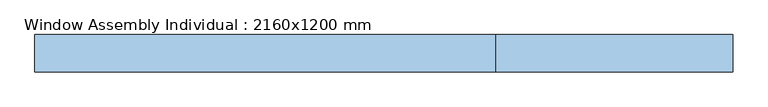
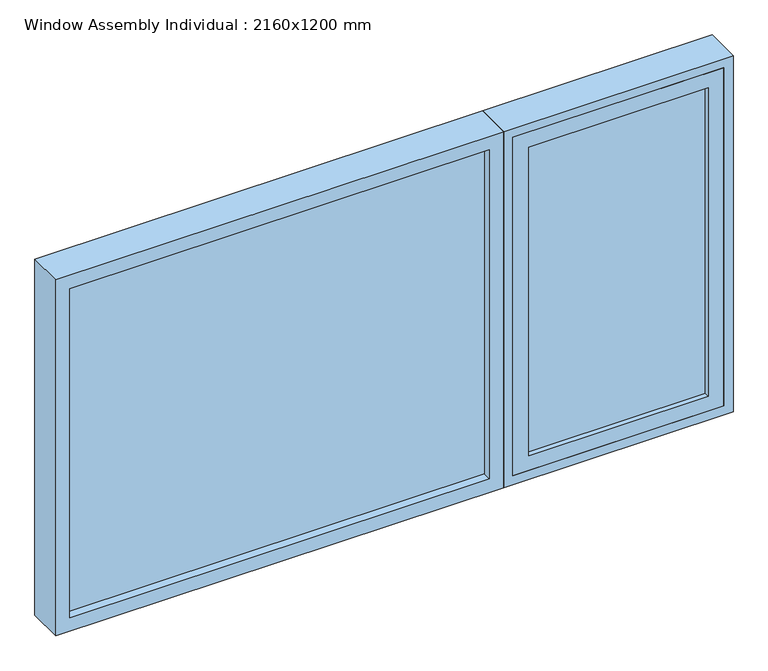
"""IFC4 building model written with IfcOpenShell, lengths in millimetres: window geometry, Window Assembly Individual : 2160x1200 mm."""

from ifc_helpers import new_model, si_unit, frame, origin, place, context, project, spatial, polyline, outline, extrude, faceted_brep, source, transform, mapped, element, save


def window_assembly_individual_2160x1200_mm_ef5d95c3(model_context):
    return source(origin(), model_context, "Body", "SolidModel", [
        extrude(outline(polyline([(1970.0, 378.0), (830.0, 378.0), (830.0, 1050.0), (1970.0, 1050.0), (1970.0, 378.0)]), holes=[polyline([(880.0, 428.0), (1920.0, 428.0), (1920.0, 1000.0), (880.0, 1000.0), (880.0, 428.0)])]), frame((0.0, -190.0, 0.0), z_axis=(0.0, 1.0, 0.0), x_axis=(0.0, 0.0, 1.0)), (0.0, 0.0, 1.0), 50.0),
        extrude(outline(polyline([(1000.0, -155.0), (1000.0, -175.0), (428.0, -175.0), (428.0, -155.0), (1000.0, -155.0)])), frame((0.0, 0.0, 880.0), z_axis=(0.0, 0.0, 1.0), x_axis=(1.0, 0.0, 0.0)), (0.0, 0.0, 1.0), 1040.0),
        faceted_brep([(1035.0, -75.0, 1955.0), (1035.0, -75.0, 845.0), (1035.0, -140.0, 845.0), (1035.0, -140.0, 1955.0), (1050.0, -140.0, 830.0), (1050.0, -140.0, 1970.0), (378.0, -140.0, 1970.0), (378.0, -140.0, 830.0), (393.0, -140.0, 845.0), (393.0, -140.0, 1955.0), (393.0, -75.0, 845.0), (1080.0, -75.0, 2000.0), (1080.0, -75.0, 800.0), (348.0, -75.0, 800.0), (348.0, -75.0, 2000.0), (393.0, -75.0, 1955.0), (1080.0, -190.0, 2000.0), (1080.0, -190.0, 800.0), (348.0, -190.0, 800.0), (348.0, -190.0, 2000.0), (1050.0, -190.0, 1970.0), (1050.0, -190.0, 830.0), (378.0, -190.0, 830.0), (378.0, -190.0, 1970.0)], [[[0, 1, 2, 3]], [[4, 5, 6, 7], [3, 2, 8, 9]], [[1, 10, 8, 2]], [[11, 12, 13, 14], [1, 0, 15, 10]], [[16, 17, 12, 11]], [[17, 18, 13, 12]], [[17, 16, 19, 18], [20, 21, 22, 23]], [[10, 15, 9, 8]], [[18, 19, 14, 13]], [[7, 6, 23, 22]], [[4, 7, 22, 21]], [[5, 4, 21, 20]], [[15, 0, 3, 9]], [[19, 16, 11, 14]], [[6, 5, 20, 23]]]),
        extrude(outline(polyline([(303.0, -140.0), (303.0, -162.0), (-1035.0, -162.0), (-1035.0, -140.0), (303.0, -140.0)])), frame((0.0, 0.0, 845.0), z_axis=(0.0, 0.0, 1.0), x_axis=(1.0, 0.0, 0.0)), (0.0, 0.0, 1.0), 1110.0),
        extrude(outline(polyline([(800.0, 348.0), (2000.0, 348.0), (2000.0, -1080.0), (800.0, -1080.0), (800.0, 348.0)]), holes=[polyline([(1955.0, 303.0), (845.0, 303.0), (845.0, -1035.0), (1955.0, -1035.0), (1955.0, 303.0)])]), frame((0.0, -190.0, 0.0), z_axis=(0.0, 1.0, 0.0), x_axis=(0.0, 0.0, 1.0)), (0.0, 0.0, 1.0), 115.0),
    ])


if __name__ == "__main__":
    model = new_model("IFC4")
    model_context = context("Model", 3, world=origin())
    ifc_project = project(units=[si_unit("LENGTHUNIT", "METRE", prefix="MILLI")], contexts=[model_context])
    site = spatial("IfcSite", under=ifc_project)
    building = spatial("IfcBuilding", under=site)
    placement = place(None, origin())
    window_assembly_individual_2160x1200_mm_shape = window_assembly_individual_2160x1200_mm_ef5d95c3(model_context)
    element("IfcWindow", 1, ObjectType="Window Assembly Individual : 2160x1200 mm", at=placement, inside=building, context=model_context, shape_type="MappedRepresentation", body=[
        mapped(window_assembly_individual_2160x1200_mm_shape, transform((0.0, 0.0, 0.0), x_axis=(1.0, 0.0, 0.0), y_axis=(0.0, 1.0, 0.0), z_axis=(0.0, 0.0, 1.0))),
    ])
    save(model, "model.ifc")
